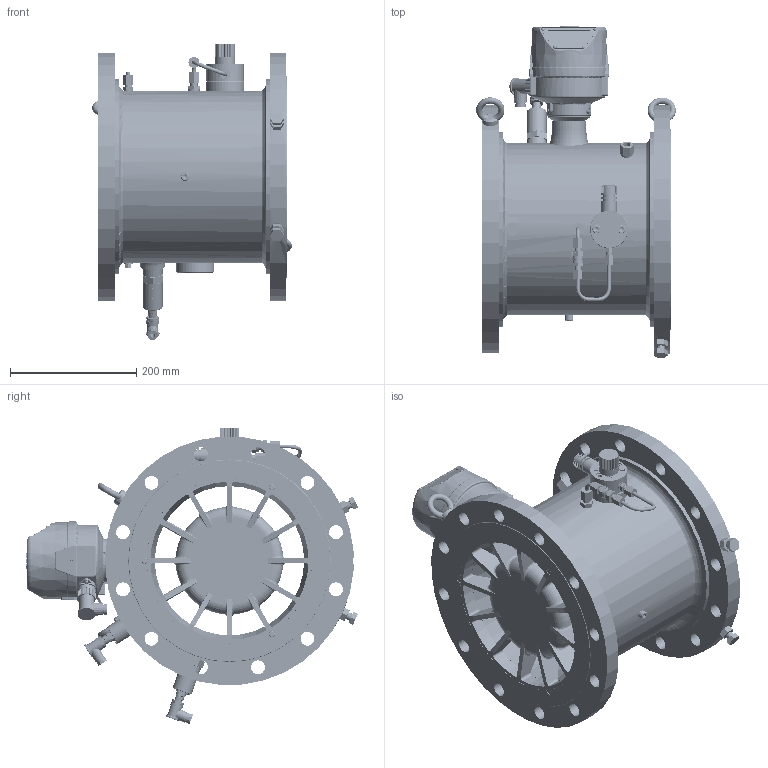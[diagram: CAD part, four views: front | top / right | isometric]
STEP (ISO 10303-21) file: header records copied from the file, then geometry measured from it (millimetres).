
FILE_DESCRIPTION((''),'2;1');
FILE_NAME('TRZ03-K_DN250_PN10_L_ASM','2025-12-08T15:03:42',('R74497'),(''),'CREO PARAMETRIC BY PTC INC, 2024273','CREO PARAMETRIC BY PTC INC, 2024273','');
FILE_SCHEMA(('CONFIG_CONTROL_DESIGN','SHAPE_APPEARANCE_LAYERS_GROUPS'));
Length unit declared in the file: millimetre
Products named in the file (91): TRZ03-K_DN250_PN10_ROHR_ROH_AF0; TRZ03-K_DN250_PN10_FLANSCH_ROH_AF1; TRZ03-K_DN250_PN10_FLANSCH_ROH_AF0; 062903_4_V00_AF0; 056772_4_AF0; 056772_4; TRZ03-K_DN250_PN10_RUNDNAHT_1_AF0; TRZ03-K_DN250_PN10_RUNDNAHT_2_AF1; TRZ03-K_DN250_PN10_NAHT_ZW_AF0; 063674_4_AF0; 063674_4_AF1; TRZ03-K_DN250_PN10_NAHT_HF3_1_AF0; 933M12X35; 934M12; TRZ03-K_DN250_PN10_NAHT_HF3_2_AF1; TRZ03-K_DN250_PN10_FERTIG_ASM; 062953_4; 1M6X20; O-RING_52X2_5; GEHAEUSE_TRZ03_ZWF_PED-2012; 054578_2; 965M3X6; STECKER_WINKEL_ZWF_PED-2012; STECKVERBINDER_ZWF_PED-2012; AM3X10_DIN404_ZWF_PED-2012; 84M3X8; STECKER_FA_BINDER_ZWF_PED-2012_ASM; LASCHE_ZWF_PED-2012; KERBNAGEL_ZWF_PED-2012; PLEXIGLASSCHEIBE_ZWF_PED-2012; SCHILD_SCHRAEG_ZWF_PED-2012; 551M6X10; 055027_4I; RADIALKUGELLAGER_3X7X3; 055027_4C; 055027_4F; KNEBELKERBSTIFT_2_L30; 055027_4A; 055027_4D; 055027_4B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
Assembly tree (121 placements, depth 5):
  TRZ03-K_DN250_PN10_L_ASM
    TRZ03-K_DN250_PN10_FERTIG_ASM
      TRZ03-K_DN250_PN10_ROHR_ROH_AF0
      TRZ03-K_DN250_PN10_FLANSCH_ROH_AF1
      TRZ03-K_DN250_PN10_FLANSCH_ROH_AF0
      062903_4_V00_AF0
      056772_4_AF0
      056772_4
      TRZ03-K_DN250_PN10_RUNDNAHT_1_AF0
      TRZ03-K_DN250_PN10_RUNDNAHT_2_AF1
      TRZ03-K_DN250_PN10_NAHT_ZW_AF0
      063674_4_AF0
      063674_4_AF1
      TRZ03-K_DN250_PN10_NAHT_HF3_1_AF0
      933M12X35  x2
      934M12  x2
      TRZ03-K_DN250_PN10_NAHT_HF3_2_AF1
    BAUGRUPPE_ZWF_PED-2012_VEREINF_ASM
      062953_4
      1M6X20  x6
      O-RING_52X2_5
      GEHAEUSE_TRZ03_ZWF_PED-2012
      054578_2
      965M3X6  x2
      STECKER_FA_BINDER_ZWF_PED-2012_ASM
        STECKER_WINKEL_ZWF_PED-2012
        STECKVERBINDER_ZWF_PED-2012
        AM3X10_DIN404_ZWF_PED-2012
        84M3X8
      LASCHE_ZWF_PED-2012
      KERBNAGEL_ZWF_PED-2012  x5
      PLEXIGLASSCHEIBE_ZWF_PED-2012
      SCHILD_SCHRAEG_ZWF_PED-2012
      551M6X10  x3
      063240_4_ASM
        055027_4I
        RADIALKUGELLAGER_3X7X3  x4
        055027_4C
        055027_4F
        KNEBELKERBSTIFT_2_L30  x2
        055027_4A
        055027_4D
        055027_4B
        055027_4E
        051409_4
        055027_4G
    DICHTRING_G1_4ZOLL  x3
    054365_4  x2
    063969_4_ASM
      VERSCHR_G1_4_ERMETO_GE06SRCF
      063635_4_DN200_TERZ
    PR_ANSCHLUSS_ERMETO_G1_8_ASM
      DICHTRING_G1_8ZOLL
      VERSCHR_G1_8_ERMETO_GE06PLRG
      BUTZEN_BUZ_6_L_S
    PUMPE_SN_90_59_266_00_ASM
      MITTELTEIL_SN_90_59_266_00
      BEHAELTER_SN_90_59_266_00
      VERSCHRAUBUNG__SN_90_59_266_00
    1M8X25  x2
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Bounding box: 316.97 x 526.66 x 469.39 mm (x, y, z)
Volume: 7801102.8 mm3; surface area: 1692766.3 mm2
Topology: 123 solids, 168 shells, 4512 faces, 11040 edges, 6878 vertices
Faces by surface type: plane 1851, cylinder 1403, cone 481, torus 362, bspline 267, extrusion 106, sphere 42
Entity records: 128940 total; most frequent: CARTESIAN_POINT 41840, DIRECTION 16781, ORIENTED_EDGE 16092, EDGE_CURVE 8109, AXIS2_PLACEMENT_3D 6547, VERTEX_POINT 5170, EDGE_LOOP 3789, VECTOR 3687
